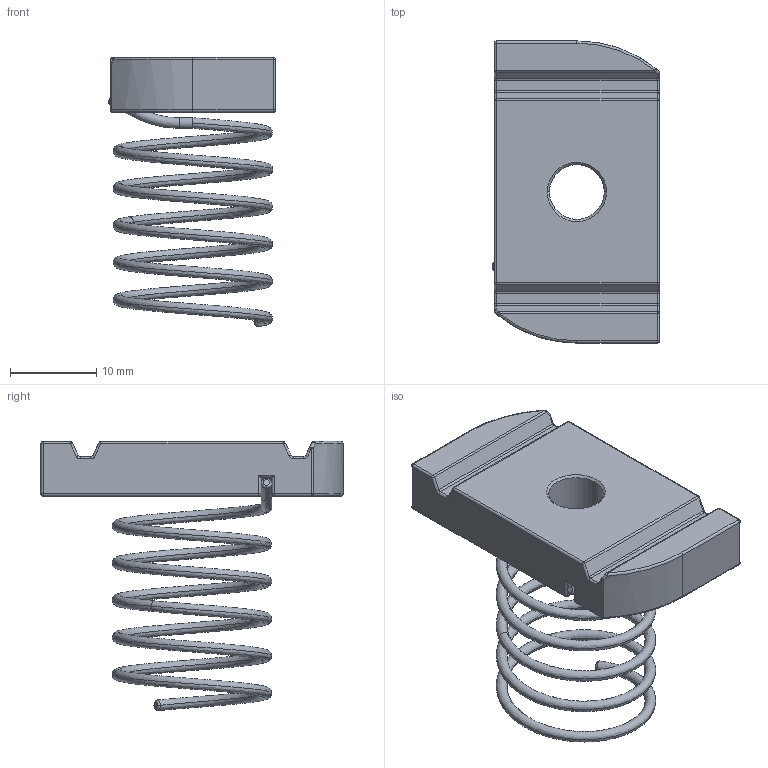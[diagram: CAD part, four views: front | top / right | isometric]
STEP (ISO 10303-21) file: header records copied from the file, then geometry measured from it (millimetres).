
FILE_DESCRIPTION((''),'2;1');
FILE_NAME('SCE-PS1420_ASM','2011-11-11T',('dougp'),(''),'PRO/ENGINEER BY PARAMETRIC TECHNOLOGY CORPORATION, 2009230','PRO/ENGINEER BY PARAMETRIC TECHNOLOGY CORPORATION, 2009230','');
FILE_SCHEMA(('AUTOMOTIVE_DESIGN { 1 0 10303 214 1 1 1 1 }'));
Length unit declared in the file: inch
Products named in the file (2): 108363; SCE-PS1420_ASM
Assembly tree (1 placements, depth 2):
  SCE-PS1420_ASM
    108363
Bounding box: 19.38 x 35.05 x 31.23 mm (x, y, z)
Volume: 4122.3 mm3; surface area: 3230.2 mm2
Topology: 1 solids, 1 shells, 115 faces, 255 edges, 145 vertices
Faces by surface type: cylinder 50, plane 19, sphere 18, torus 16, bspline 8, cone 4
Entity records: 10579 total; most frequent: CARTESIAN_POINT 7962, DIRECTION 567, ORIENTED_EDGE 504, EDGE_CURVE 252, AXIS2_PLACEMENT_3D 233, VERTEX_POINT 139, CIRCLE 120, EDGE_LOOP 117
